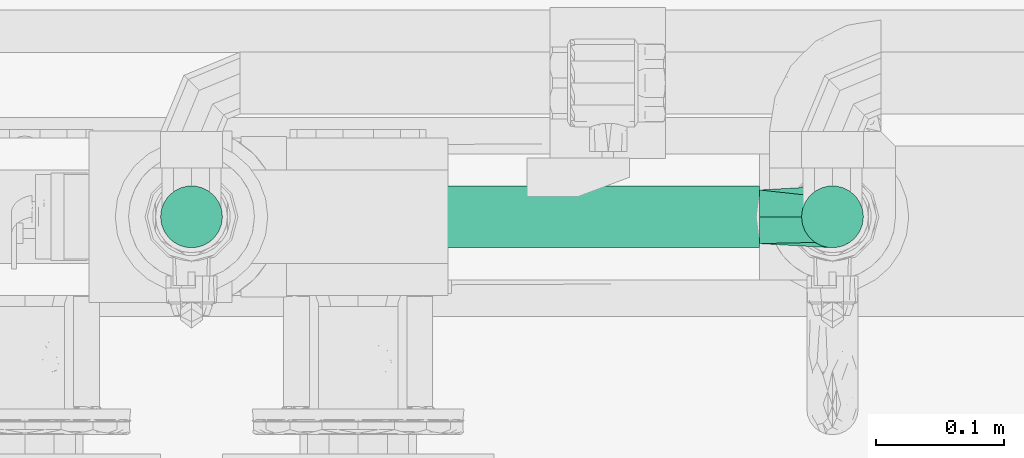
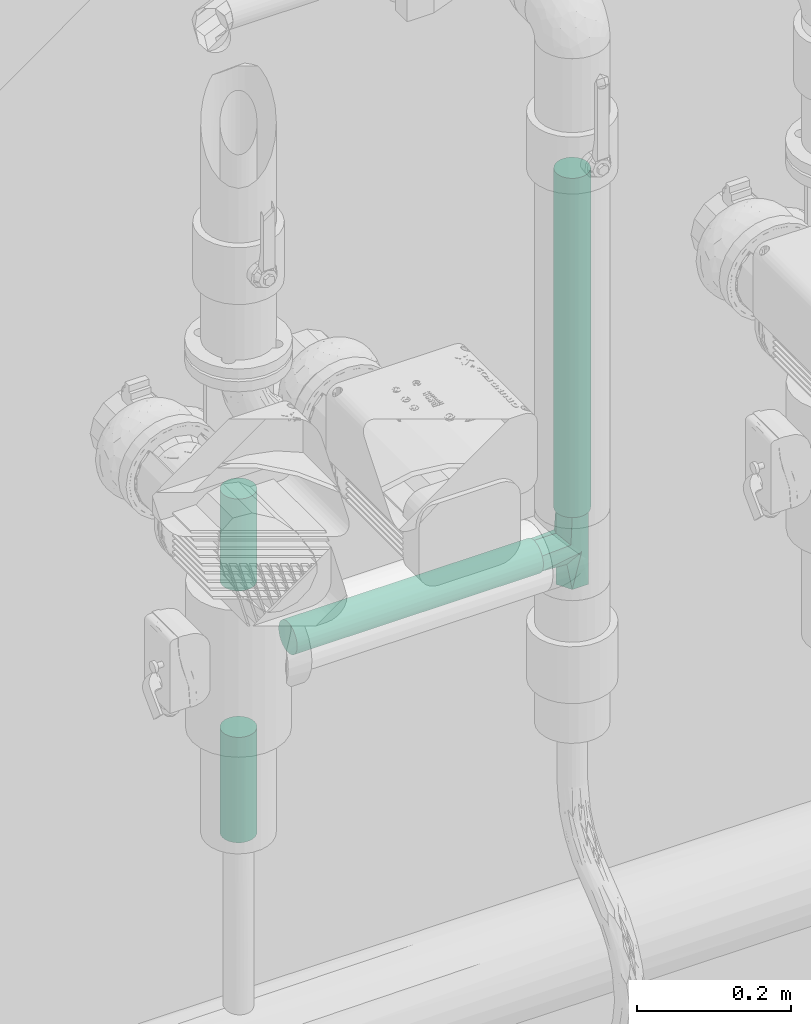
# One storey, part 72 of 94: 4 flow segments, 1 flow fitting.
"""IFC2X3 building model written with IfcOpenShell, lengths in millimetres."""

from ifc_helpers import new_model, entity, si_unit, converted_unit, derived_unit, direction, frame, frame_2d, origin, origin_2d_with_axis, place, context, subcontext, project, spatial, circle, extrude, faceted_brep, source, transform, mapped, material, type_object, type_shapes, element, save


model = new_model("IFC2X3")

# Units and contexts
model_context = context("Model", 3, precision=0.01, world=origin(), true_north=direction((6.123031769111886e-17, 1.0)))
body_context = subcontext(model_context, "Body", "Model", "MODEL_VIEW")
ifc_project = project(units=[si_unit("LENGTHUNIT", "METRE", prefix="MILLI"), si_unit("AREAUNIT", "SQUARE_METRE"), si_unit("VOLUMEUNIT", "CUBIC_METRE"), converted_unit("PLANEANGLEUNIT", "DEGREE", entity("IfcRatioMeasure", 0.017453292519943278), si_unit("PLANEANGLEUNIT", "RADIAN"), dimensions=[0, 0, 0, 0, 0, 0, 0]), si_unit("MASSUNIT", "GRAM", prefix="KILO"), derived_unit("MASSDENSITYUNIT", [(si_unit("MASSUNIT", "GRAM", prefix="KILO"), 1), (si_unit("LENGTHUNIT", "METRE"), -3)]), derived_unit("IONCONCENTRATIONUNIT", [(si_unit("MASSUNIT", "GRAM", prefix="KILO"), 1), (si_unit("LENGTHUNIT", "METRE"), -3)]), derived_unit("MOMENTOFINERTIAUNIT", [(si_unit("LENGTHUNIT", "METRE"), 4)]), si_unit("TIMEUNIT", "SECOND"), si_unit("FREQUENCYUNIT", "HERTZ"), si_unit("THERMODYNAMICTEMPERATUREUNIT", "DEGREE_CELSIUS"), derived_unit("THERMALTRANSMITTANCEUNIT", [(si_unit("MASSUNIT", "GRAM", prefix="KILO"), 1), (si_unit("THERMODYNAMICTEMPERATUREUNIT", "KELVIN"), -1), (si_unit("TIMEUNIT", "SECOND"), -3)]), derived_unit("THERMALCONDUCTANCEUNIT", [(si_unit("MASSUNIT", "GRAM", prefix="KILO"), 1), (si_unit("THERMODYNAMICTEMPERATUREUNIT", "KELVIN"), -1), (si_unit("TIMEUNIT", "SECOND"), -3), (si_unit("LENGTHUNIT", "METRE"), 1)]), derived_unit("VOLUMETRICFLOWRATEUNIT", [(si_unit("LENGTHUNIT", "METRE"), 3), (si_unit("TIMEUNIT", "SECOND"), -1)]), derived_unit("MASSFLOWRATEUNIT", [(si_unit("MASSUNIT", "GRAM", prefix="KILO"), 1), (si_unit("TIMEUNIT", "SECOND"), -1)]), derived_unit("ROTATIONALFREQUENCYUNIT", [(si_unit("TIMEUNIT", "SECOND"), -1)]), si_unit("ELECTRICCURRENTUNIT", "AMPERE"), si_unit("ELECTRICVOLTAGEUNIT", "VOLT"), si_unit("POWERUNIT", "WATT"), si_unit("FORCEUNIT", "NEWTON", prefix="KILO"), si_unit("ILLUMINANCEUNIT", "LUX"), si_unit("LUMINOUSFLUXUNIT", "LUMEN"), si_unit("LUMINOUSINTENSITYUNIT", "CANDELA"), derived_unit("USERDEFINED", [(si_unit("MASSUNIT", "GRAM", prefix="KILO"), -1), (si_unit("LENGTHUNIT", "METRE"), -2), (si_unit("TIMEUNIT", "SECOND"), 3), (si_unit("LUMINOUSFLUXUNIT", "LUMEN"), 1)]), derived_unit("USERDEFINED", [(si_unit("MASSUNIT", "GRAM", prefix="KILO"), 1), (si_unit("TIMEUNIT", "SECOND"), -3), (si_unit("LENGTHUNIT", "METRE"), 3), (si_unit("ELECTRICCURRENTUNIT", "AMPERE"), -2)]), derived_unit("SOUNDPOWERUNIT", [(si_unit("MASSUNIT", "GRAM", prefix="KILO"), 1), (si_unit("TIMEUNIT", "SECOND"), -3), (si_unit("LENGTHUNIT", "METRE"), 2)]), derived_unit("SOUNDPRESSUREUNIT", [(si_unit("MASSUNIT", "GRAM", prefix="KILO"), 1), (si_unit("LENGTHUNIT", "METRE"), -1), (si_unit("TIMEUNIT", "SECOND"), -2)]), derived_unit("LINEARVELOCITYUNIT", [(si_unit("LENGTHUNIT", "METRE"), 1), (si_unit("TIMEUNIT", "SECOND"), -1)]), si_unit("PRESSUREUNIT", "PASCAL"), derived_unit("USERDEFINED", [(si_unit("MASSUNIT", "GRAM", prefix="KILO"), 1), (si_unit("LENGTHUNIT", "METRE"), -2), (si_unit("TIMEUNIT", "SECOND"), -2)]), derived_unit("LINEARFORCEUNIT", [(si_unit("MASSUNIT", "GRAM", prefix="KILO"), 1), (si_unit("TIMEUNIT", "SECOND"), -2)]), derived_unit("PLANARFORCEUNIT", [(si_unit("MASSUNIT", "GRAM", prefix="KILO"), 1), (si_unit("LENGTHUNIT", "METRE"), -1), (si_unit("TIMEUNIT", "SECOND"), -2)]), derived_unit("SPECIFICHEATCAPACITYUNIT", [(si_unit("THERMODYNAMICTEMPERATUREUNIT", "KELVIN"), -1), (si_unit("LENGTHUNIT", "METRE"), 2), (si_unit("TIMEUNIT", "SECOND"), -2)]), derived_unit("HEATINGVALUEUNIT", [(si_unit("LENGTHUNIT", "METRE"), 2), (si_unit("TIMEUNIT", "SECOND"), -2)]), derived_unit("VAPORPERMEABILITYUNIT", [(si_unit("LENGTHUNIT", "METRE"), -1), (si_unit("TIMEUNIT", "SECOND"), 1)]), derived_unit("DYNAMICVISCOSITYUNIT", [(si_unit("MASSUNIT", "GRAM", prefix="KILO"), 1), (si_unit("TIMEUNIT", "SECOND"), -1), (si_unit("LENGTHUNIT", "METRE"), -1)]), derived_unit("THERMALEXPANSIONCOEFFICIENTUNIT", [(si_unit("THERMODYNAMICTEMPERATUREUNIT", "KELVIN"), -1)]), derived_unit("MODULUSOFELASTICITYUNIT", [(si_unit("MASSUNIT", "GRAM", prefix="KILO"), 1), (si_unit("LENGTHUNIT", "METRE"), -1), (si_unit("TIMEUNIT", "SECOND"), -2)]), derived_unit("ISOTHERMALMOISTURECAPACITYUNIT", [(si_unit("LENGTHUNIT", "METRE"), 3), (si_unit("MASSUNIT", "GRAM", prefix="KILO"), -1)]), derived_unit("MOISTUREDIFFUSIVITYUNIT", [(si_unit("TIMEUNIT", "SECOND"), -1), (si_unit("LENGTHUNIT", "METRE"), 2)])], contexts=[model_context])

# Site, building, storey
site_placement = place(None, origin())
site = spatial("IfcSite", under=ifc_project, at=site_placement, Name="Default", CompositionType="ELEMENT")
building_placement = place(site_placement, origin())
building = spatial("IfcBuilding", under=site, at=building_placement, CompositionType="ELEMENT")
storey_placement = place(building_placement, origin())
storey = spatial("IfcBuildingStorey", under=building, at=storey_placement, Name="Niveau 0", CompositionType="ELEMENT", Elevation=0.0)

# Flow segments
pipe_segment_type_1 = type_object("IfcPipeSegmentType", Name="Canalisation:Bride acier", PredefinedType="NOTDEFINED")
flow_segment_1_placement = place(storey_placement, origin())
element("IfcFlowSegment", 1, at=flow_segment_1_placement, inside=storey, type_object=pipe_segment_type_1, Name="Canalisation:Bride acier", ObjectType="Canalisation:Bride acier", context=body_context, shape_type="SweptSolid", body=[
    extrude(circle(Radius=24.13, at=origin_2d_with_axis()), frame((-9872.145865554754, 9922.470546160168, 2067.589965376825)), (0.0, 0.0, 1.0), 537.4100346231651),
])
flow_segment_2_placement = place(storey_placement, origin())
element("IfcFlowSegment", 2, at=flow_segment_2_placement, inside=storey, type_object=pipe_segment_type_1, Name="Canalisation:Bride acier", ObjectType="Canalisation:Bride acier", context=body_context, shape_type="SweptSolid", body=[
    extrude(circle(Radius=24.13, at=origin_2d_with_axis()), frame((-10372.145865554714, 9922.47054616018, 1727.60345755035)), (0.0, 0.0, 1.0), 166.9865078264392),
])
pipe_segment_type_2 = type_object("IfcPipeSegmentType", Name="Canalisation:Standard", PredefinedType="NOTDEFINED")
flow_segment_3_placement = place(storey_placement, origin())
element("IfcFlowSegment", 3, at=flow_segment_3_placement, inside=storey, type_object=pipe_segment_type_2, Name="Canalisation:Standard", ObjectType="Canalisation:Standard", context=body_context, shape_type="SweptSolid", body=[
    extrude(circle(Radius=24.13, at=frame_2d((4.373069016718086e-42, 2.707167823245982e-13), x_axis=(1.0, 0.0))), frame((-10298.145865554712, 9922.470546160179, 2010.5899653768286), z_axis=(1.0, 0.0, 0.0), x_axis=(0.0, 1.0, 0.0)), (0.0, 0.0, 1.0), 368.99999999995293),
])
flow_segment_4_placement = place(storey_placement, origin())
element("IfcFlowSegment", 4, at=flow_segment_4_placement, inside=storey, type_object=pipe_segment_type_2, Name="Canalisation:Standard", ObjectType="Canalisation:Standard", context=body_context, shape_type="SweptSolid", body=[
    extrude(circle(Radius=24.13, at=origin_2d_with_axis()), frame((-10372.145865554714, 9922.47054616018, 2126.589965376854), z_axis=(0.0, 0.0, 1.0), x_axis=(-1.0, 0.0, 0.0)), (0.0, 0.0, 1.0), 145.46275572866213),
])

# Flow fitting
ifc_material = material(Name="<Unnamed>")
pipe_fitting_type = type_object("IfcPipeFittingType", Name="Té - Générique:Standard", PredefinedType="NOTDEFINED", material=ifc_material)
shared_shape = source(origin(), body_context, "Body", "Brep", [
    faceted_brep([(-57.0, -24.150000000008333, 0.0), (-57.0, -21.13125000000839, 5.228628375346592), (-57.0, -18.112500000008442, 10.457256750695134), (-57.0, -12.075000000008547, 20.9145135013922), (-57.0, 0.0, 20.91451350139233), (-57.0, 12.074999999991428, 20.914513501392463), (-57.0, 18.112499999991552, 10.457256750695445), (-57.0, 24.149999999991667, 0.0), (-57.0, 18.112499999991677, -10.45725675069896), (-57.0, 12.074999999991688, -20.91451350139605), (-57.0, 0.0, -20.914513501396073), (-57.0, -12.075000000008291, -20.914513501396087), (-57.0, -18.11250000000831, -10.457256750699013), (57.0, 24.149999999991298, 0.0), (57.0, 18.112499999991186, 10.457256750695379), (57.0, 12.074999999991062, 20.914513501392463), (57.0, 0.0, 20.91451350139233), (57.0, -12.075000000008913, 20.9145135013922), (57.0, -18.112500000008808, 10.457256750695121), (57.0, -24.150000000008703, 0.0), (57.0, -21.13125000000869, -5.228628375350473), (57.0, -18.112500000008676, -10.457256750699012), (57.0, -12.075000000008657, -20.914513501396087), (57.0, 0.0, -20.914513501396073), (57.0, 12.074999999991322, -20.91451350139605), (57.0, 19.810999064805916, -7.515370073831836), (20.83718491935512, -20.837184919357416, 8.308413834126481), (17.52436983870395, -17.524369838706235, 16.6168276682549), (0.0, 0.0, 24.14999999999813), (-24.149999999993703, -24.15000000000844, 0.0), (-20.07541040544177, -20.07541040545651, 7.677582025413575), (-13.535622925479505, -13.535622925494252, 20.000235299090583), (24.150000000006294, -24.150000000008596, 0.0), (-18.842811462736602, -18.842811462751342, 10.000117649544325), (20.075410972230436, -20.075410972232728, -7.677580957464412), (18.842811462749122, -18.842811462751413, -10.000117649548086), (13.535622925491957, -13.535622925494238, -20.000235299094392), (-20.837184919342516, -20.837184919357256, -8.308413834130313), (0.0, 0.0, -24.15000000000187), (-17.524369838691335, -17.524369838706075, -16.616827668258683), (-18.112499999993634, -57.0, -10.457256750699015), (-12.074999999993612, -57.0, -20.914513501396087), (0.0, -57.0, -20.914513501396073), (12.075000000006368, -57.0, -20.91451350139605), (19.81099920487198, -57.0, -7.515369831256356), (24.150000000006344, -57.0, 0.0), (18.11250000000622, -57.0, 10.45725675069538), (12.075000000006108, -57.0, 20.914513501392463), (0.0, -57.0, 20.91451350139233), (-12.074999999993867, -57.0, 20.9145135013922), (-19.810999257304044, -57.0, 7.515369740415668), (-24.149999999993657, -57.0, 0.0)], [[[0, 1, 2, 3, 4, 5, 6, 7, 8, 9, 10, 11, 12]], [[13, 14, 15, 16, 17, 18, 19, 20, 21, 22, 23, 24, 25]], [[26, 19, 18]], [[27, 18, 17]], [[28, 17, 16, 15]], [[29, 30, 1]], [[2, 31, 3]], [[19, 26, 32]], [[0, 29, 1]], [[18, 27, 26]], [[17, 28, 27]], [[15, 14, 13, 7, 6, 5]], [[30, 2, 1]], [[31, 4, 3]], [[31, 28, 4]], [[5, 28, 15]], [[2, 30, 33, 31]], [[28, 5, 4]], [[9, 8, 7, 13, 25, 24]], [[21, 34, 35, 36]], [[0, 37, 29]], [[9, 24, 38]], [[12, 39, 37]], [[10, 9, 38, 11]], [[34, 21, 20]], [[23, 22, 36]], [[32, 20, 19]], [[36, 22, 21]], [[39, 11, 38]], [[32, 34, 20]], [[12, 37, 0]], [[38, 24, 23]], [[39, 12, 11]], [[36, 38, 23]], [[40, 41, 42, 43, 44, 45, 46, 47, 48, 49, 50, 51]], [[33, 49, 31]], [[29, 51, 50]], [[50, 33, 30, 29]], [[31, 49, 48]], [[27, 47, 46]], [[32, 46, 45]], [[49, 33, 50]], [[31, 48, 28]], [[46, 32, 26, 27]], [[28, 48, 47]], [[28, 47, 27]], [[35, 43, 36]], [[38, 41, 39]], [[43, 35, 44]], [[44, 35, 34, 32]], [[36, 43, 42]], [[29, 40, 51]], [[32, 45, 44]], [[39, 41, 40]], [[36, 42, 38]], [[40, 29, 37, 39]], [[38, 42, 41]]]),
])
type_shapes(pipe_fitting_type, [shared_shape])
flow_fitting_placement = place(storey_placement, frame((-9872.145865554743, 9922.47054616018, 2010.5899653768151), z_axis=(0.0, 1.0, 0.0), x_axis=(0.0, 0.0, 1.0)))
element("IfcFlowFitting", 5, at=flow_fitting_placement, inside=storey, type_object=pipe_fitting_type, material=ifc_material, Name="Té - Générique:Standard", ObjectType="Té - Générique:Standard", context=body_context, shape_type="MappedRepresentation", body=[
    mapped(shared_shape, transform((0.0, 0.0, 0.0), scale=1.0)),
])

save(model, "model.ifc")
